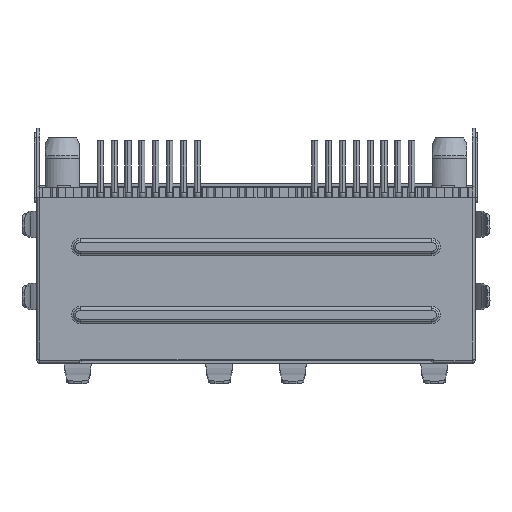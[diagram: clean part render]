
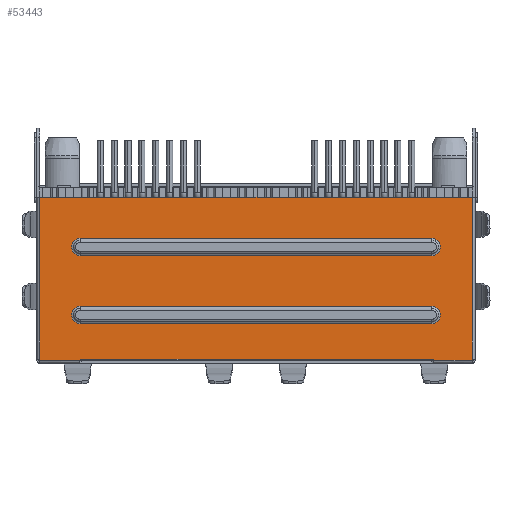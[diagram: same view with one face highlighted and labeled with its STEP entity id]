
A CAD part, front view. The second image highlights one B-rep face of the part: STEP entity #53443.
In plain terms, the highlighted planar face has unit normal (0, -1, 0).
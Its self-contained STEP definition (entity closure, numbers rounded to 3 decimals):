
#20011=DIRECTION('',(0.,0.,-1.));
#20012=VECTOR('',#20011,0.1);
#20013=CARTESIAN_POINT('',(0.15,-8.05,0.45));
#20014=LINE('',#20013,#20012);
#20041=CARTESIAN_POINT('',(-2.709,-8.05,
0.35));
#20098=CARTESIAN_POINT('',(-28.55,-8.05,0.3));
#20099=DIRECTION('',(0.,-1.,0.));
#20100=DIRECTION('',(0.,0.,1.));
#20101=AXIS2_PLACEMENT_3D('',#20098,#20099,#20100);
#20103=DIRECTION('',(-1.,0.,0.));
#20104=VECTOR('',#20103,2.959);
#20105=CARTESIAN_POINT('',(-28.691,-8.05,
0.35));
#20106=LINE('',#20105,#20104);
#20107=DIRECTION('',(0.,0.,1.));
#20108=VECTOR('',#20107,0.1);
#20109=CARTESIAN_POINT('',(-31.65,-8.05,0.35));
#20110=LINE('',#20109,#20108);
#20111=DIRECTION('',(-1.,0.,0.));
#20112=VECTOR('',#20111,2.859);
#20113=CARTESIAN_POINT('',(0.15,-8.05,
0.35));
#20114=LINE('',#20113,#20112);
#20115=CARTESIAN_POINT('',(-2.85,-8.05,0.3));
#20116=DIRECTION('',(0.,-1.,0.));
#20117=DIRECTION('',(0.943,0.,0.333));
#20118=AXIS2_PLACEMENT_3D('',#20115,#20116,#20117);
#20120=CARTESIAN_POINT('',(-28.65,-8.05,3.7));
#20121=DIRECTION('',(0.,-1.,0.));
#20122=DIRECTION('',(0.,0.,1.));
#20123=AXIS2_PLACEMENT_3D('',#20120,#20121,#20122);
#20125=CARTESIAN_POINT('',(-2.85,-8.05,3.7));
#20126=DIRECTION('',(0.,-1.,0.));
#20127=DIRECTION('',(0.,0.,-1.));
#20128=AXIS2_PLACEMENT_3D('',#20125,#20126,#20127);
#20130=CARTESIAN_POINT('',(-28.65,-8.05,8.7));
#20131=DIRECTION('',(0.,-1.,0.));
#20132=DIRECTION('',(0.,0.,1.));
#20133=AXIS2_PLACEMENT_3D('',#20130,#20131,#20132);
#20135=CARTESIAN_POINT('',(-2.85,-8.05,8.7));
#20136=DIRECTION('',(0.,-1.,0.));
#20137=DIRECTION('',(0.,0.,-1.));
#20138=AXIS2_PLACEMENT_3D('',#20135,#20136,#20137);
#20144=DIRECTION('',(1.,0.,0.));
#20145=VECTOR('',#20144,25.7);
#20146=CARTESIAN_POINT('',(-28.55,-8.05,0.45));
#20147=LINE('',#20146,#20145);
#20409=DIRECTION('',(-1.,0.,0.));
#20410=VECTOR('',#20409,31.8);
#20411=CARTESIAN_POINT('',(0.15,-8.05,12.35));
#20412=LINE('',#20411,#20410);
#20427=DIRECTION('',(0.,0.,-1.));
#20428=VECTOR('',#20427,11.9);
#20429=CARTESIAN_POINT('',(-31.65,-8.05,12.35));
#20430=LINE('',#20429,#20428);
#20553=DIRECTION('',(0.,0.,1.));
#20554=VECTOR('',#20553,11.9);
#20555=CARTESIAN_POINT('',(0.15,-8.05,0.45));
#20556=LINE('',#20555,#20554);
#20666=DIRECTION('',(1.,0.,0.));
#20667=VECTOR('',#20666,25.8);
#20668=CARTESIAN_POINT('',(-28.65,-8.05,4.346));
#20669=LINE('',#20668,#20667);
#20696=DIRECTION('',(-1.,0.,0.));
#20697=VECTOR('',#20696,25.8);
#20698=CARTESIAN_POINT('',(-2.85,-8.05,3.054));
#20699=LINE('',#20698,#20697);
#20760=DIRECTION('',(1.,0.,0.));
#20761=VECTOR('',#20760,25.8);
#20762=CARTESIAN_POINT('',(-28.65,-8.05,9.346));
#20763=LINE('',#20762,#20761);
#20790=DIRECTION('',(-1.,0.,0.));
#20791=VECTOR('',#20790,25.8);
#20792=CARTESIAN_POINT('',(-2.85,-8.05,8.054));
#20793=LINE('',#20792,#20791);
#26598=CARTESIAN_POINT('',(-28.691,-8.05,
0.35));
#26599=VERTEX_POINT('',#26598);
#26600=CARTESIAN_POINT('',(-31.65,-8.05,0.35));
#26601=VERTEX_POINT('',#26600);
#26602=CARTESIAN_POINT('',(-31.65,-8.05,0.45));
#26603=VERTEX_POINT('',#26602);
#26606=CARTESIAN_POINT('',(-31.65,-8.05,12.35));
#26607=VERTEX_POINT('',#26606);
#26608=CARTESIAN_POINT('',(-28.55,-8.05,0.45));
#26609=VERTEX_POINT('',#26608);
#26671=CARTESIAN_POINT('',(-28.65,-8.05,3.054));
#26673=VERTEX_POINT('',#26671);
#26679=CARTESIAN_POINT('',(-28.65,-8.05,4.346));
#26680=VERTEX_POINT('',#26679);
#26685=CARTESIAN_POINT('',(-28.65,-8.05,8.054));
#26687=VERTEX_POINT('',#26685);
#26693=CARTESIAN_POINT('',(-28.65,-8.05,9.346));
#26694=VERTEX_POINT('',#26693);
#27357=CARTESIAN_POINT('',(0.15,-8.05,
0.35));
#27358=VERTEX_POINT('',#27357);
#27359=VERTEX_POINT('',#20041);
#27360=CARTESIAN_POINT('',(-2.85,-8.05,0.45));
#27361=VERTEX_POINT('',#27360);
#27368=CARTESIAN_POINT('',(0.15,-8.05,0.45));
#27369=VERTEX_POINT('',#27368);
#27370=CARTESIAN_POINT('',(0.15,-8.05,12.35));
#27371=VERTEX_POINT('',#27370);
#27405=CARTESIAN_POINT('',(-2.85,-8.05,3.054));
#27407=VERTEX_POINT('',#27405);
#27414=CARTESIAN_POINT('',(-2.85,-8.05,4.346));
#27415=VERTEX_POINT('',#27414);
#27419=CARTESIAN_POINT('',(-2.85,-8.05,8.054));
#27421=VERTEX_POINT('',#27419);
#27428=CARTESIAN_POINT('',(-2.85,-8.05,9.346));
#27429=VERTEX_POINT('',#27428);
#53400=CARTESIAN_POINT('',(-7.83,-8.05,6.35));
#53401=DIRECTION('',(0.,1.,0.));
#53402=DIRECTION('',(1.,0.,0.));
#53403=AXIS2_PLACEMENT_3D('',#53400,#53401,#53402);
#53404=PLANE('',#53403);
#53406=ORIENTED_EDGE('',*,*,#53405,.F.);
#53408=ORIENTED_EDGE('',*,*,#53407,.T.);
#53409=ORIENTED_EDGE('',*,*,#53376,.T.);
#53410=ORIENTED_EDGE('',*,*,#53386,.T.);
#53412=ORIENTED_EDGE('',*,*,#53411,.F.);
#53414=ORIENTED_EDGE('',*,*,#53413,.F.);
#53416=ORIENTED_EDGE('',*,*,#53415,.F.);
#53417=ORIENTED_EDGE('',*,*,#53190,.T.);
#53418=ORIENTED_EDGE('',*,*,#53209,.T.);
#53420=ORIENTED_EDGE('',*,*,#53419,.T.);
#53421=EDGE_LOOP('',(#53406,#53408,#53409,#53410,#53412,#53414,#53416,#53417,
#53418,#53420));
#53422=FACE_OUTER_BOUND('',#53421,.F.);
#53424=ORIENTED_EDGE('',*,*,#53423,.F.);
#53426=ORIENTED_EDGE('',*,*,#53425,.T.);
#53428=ORIENTED_EDGE('',*,*,#53427,.F.);
#53430=ORIENTED_EDGE('',*,*,#53429,.T.);
#53431=EDGE_LOOP('',(#53424,#53426,#53428,#53430));
#53432=FACE_BOUND('',#53431,.F.);
#53434=ORIENTED_EDGE('',*,*,#53433,.F.);
#53436=ORIENTED_EDGE('',*,*,#53435,.T.);
#53438=ORIENTED_EDGE('',*,*,#53437,.F.);
#53440=ORIENTED_EDGE('',*,*,#53439,.T.);
#53441=EDGE_LOOP('',(#53434,#53436,#53438,#53440));
#53442=FACE_BOUND('',#53441,.F.);
#53443=ADVANCED_FACE('',(#53422,#53432,#53442),#53404,.F.);
#20102=CIRCLE('',#20101,0.15);
#20119=CIRCLE('',#20118,0.15);
#20124=CIRCLE('',#20123,0.646);
#20129=CIRCLE('',#20128,0.646);
#20134=CIRCLE('',#20133,0.646);
#20139=CIRCLE('',#20138,0.646);
#53190=EDGE_CURVE('',#27369,#27358,#20014,.T.);
#53209=EDGE_CURVE('',#27358,#27359,#20114,.T.);
#53376=EDGE_CURVE('',#26599,#26601,#20106,.T.);
#53386=EDGE_CURVE('',#26601,#26603,#20110,.T.);
#53405=EDGE_CURVE('',#26609,#27361,#20147,.T.);
#53407=EDGE_CURVE('',#26609,#26599,#20102,.T.);
#53411=EDGE_CURVE('',#26607,#26603,#20430,.T.);
#53413=EDGE_CURVE('',#27371,#26607,#20412,.T.);
#53415=EDGE_CURVE('',#27369,#27371,#20556,.T.);
#53419=EDGE_CURVE('',#27359,#27361,#20119,.T.);
#53423=EDGE_CURVE('',#26680,#27415,#20669,.T.);
#53425=EDGE_CURVE('',#26680,#26673,#20124,.T.);
#53427=EDGE_CURVE('',#27407,#26673,#20699,.T.);
#53429=EDGE_CURVE('',#27407,#27415,#20129,.T.);
#53433=EDGE_CURVE('',#26694,#27429,#20763,.T.);
#53435=EDGE_CURVE('',#26694,#26687,#20134,.T.);
#53437=EDGE_CURVE('',#27421,#26687,#20793,.T.);
#53439=EDGE_CURVE('',#27421,#27429,#20139,.T.);
